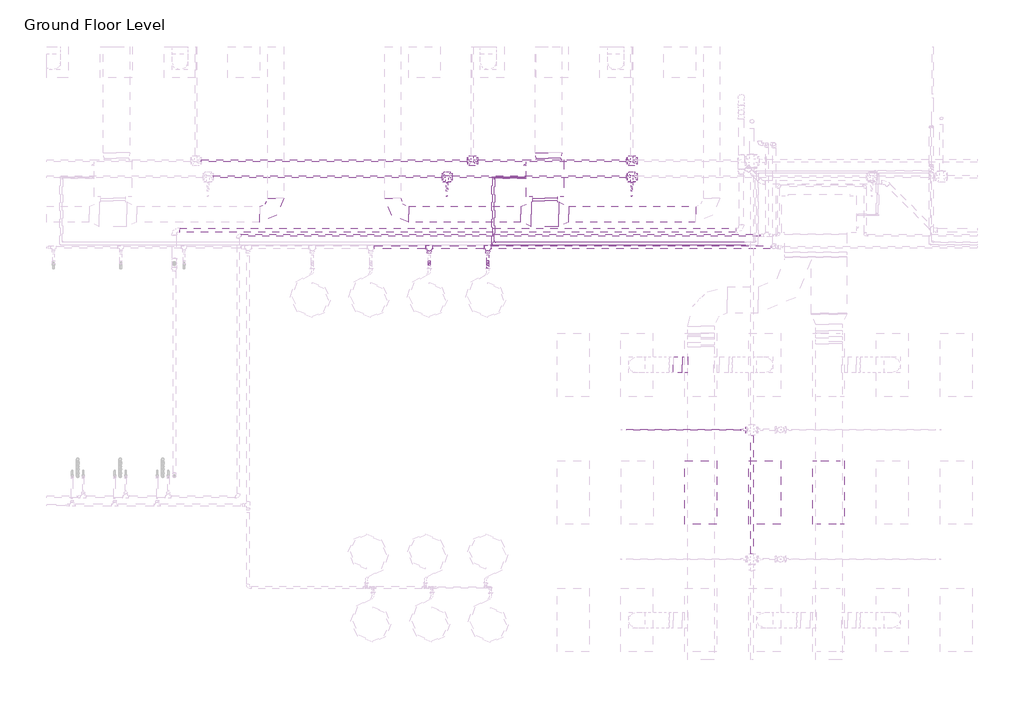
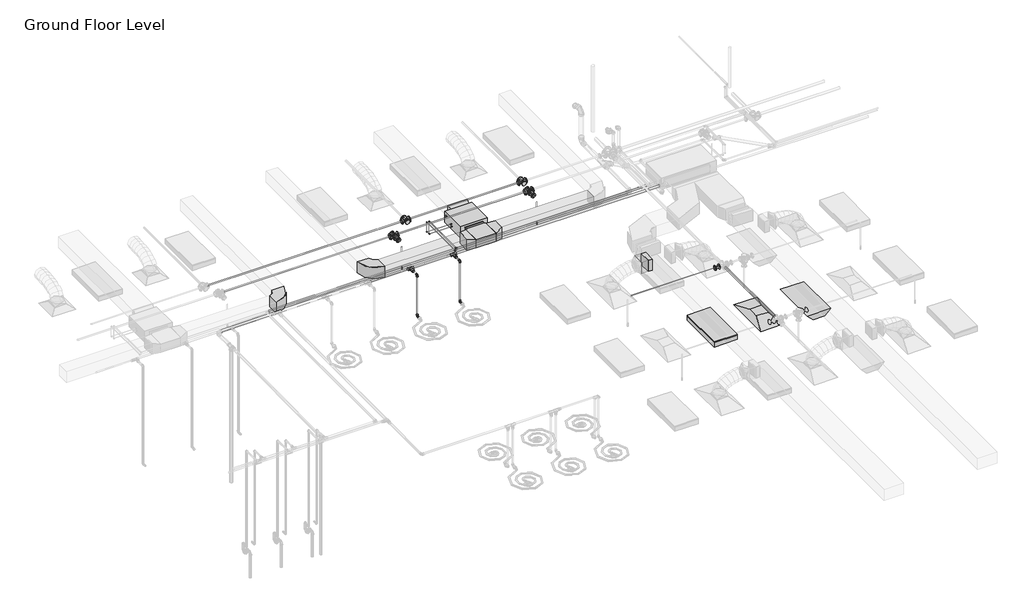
# One storey, part 48 of 72: 27 pipe segments, 21 pipe fittings, 9 duct fittings, 4 duct segments, 2 fire suppression terminals, 2 light fixtures, 1 air terminal, 1 proxy.
"""IFC4 building model written with IfcOpenShell, lengths in millimetres."""

from ifc_helpers import new_model, si_unit, point, frame, frame_2d, origin, place, context, project, spatial, polyline, circle_curve, trimmed, segment, composite_curve, outline, extrude, transform, mapped, element, save
from components import m_return_diffuser_1200x600_1200_x_600_face_300_x_300_d1983ef6, fcu_daikin_iu_bad131e0, m_rectangular_elbow_radius_1_w_618da153, m_rectangular_takeoff_standard_2be5eba1, m_rectangular_tee_standard_fa4de0e8, m_rectangular_transition_angle_45_degree_5a11b24e, m_rectangular_transition_angle_45_degree_27e6000f, m_rectangular_transition_angle_45_degree_1c32c0a1, m_rectangular_transition_angle_45_degree_6e5ad010, m_sprinkler_pendent_15_mm_pendent_06fcbd8e, m_emergency_recessed_lighting_fixture_600x1200_277_5b10b25d, m_troffer_light_parabolic_rectangular1_0600x1200mm_4_lamp_86473d4a, m_elbow_generic_standard_a088f956, m_elbow_generic_standard_2a704253, m_elbow_generic_standard_6b1a80c6, m_elbow_generic_standard_5542be81, m_reducer_flanged_cs_class_150_standard_ccf252ad, m_reducer_flanged_cs_class_150_standard_83138b42, m_tee_generic_standard_5b2ed4d4, m_tee_generic_standard_25a94648, m_tee_round_base_flanged_cs_class_150_standard_7e5987a1, standard_517a5a8d, standard_cd25fed3, standard_f1337950

model = new_model("IFC4")

# Units and contexts
model_context = context("Model", 3, world=origin())
ifc_project = project(units=[si_unit("LENGTHUNIT", "METRE", prefix="MILLI")], contexts=[model_context])

# Site, building, storey
site = spatial("IfcSite", under=ifc_project)
building = spatial("IfcBuilding", under=site)
storey = spatial("IfcBuildingStorey", under=building, Name="Ground Floor Level", Elevation=900.0)

# Air terminal
placement = place(None, origin())
m_return_diffuser_1200x600_1200_x_600_face_300_x_300_shape = m_return_diffuser_1200x600_1200_x_600_face_300_x_300_d1983ef6(model_context)
element("IfcAirTerminal", 1, ObjectType="M_Return Diffuser 1200x600 : 1200 x 600 Face 300 x 300 Connection", at=placement, inside=storey, context=model_context, shape_type="MappedRepresentation", body=[
    mapped(m_return_diffuser_1200x600_1200_x_600_face_300_x_300_shape, transform((-5737.2327605, 8835.2153534, 3650.0), x_axis=(0.0, 1.0, 0.0), y_axis=(-1.0, 0.0, 0.0), z_axis=(0.0, 0.0, 1.0))),
])

# Proxy
fcu_daikin_iu_shape = fcu_daikin_iu_bad131e0(model_context)
element("IfcBuildingElementProxy", 2, Name="FCU-DAIKIN IU : 4.5kW, 230V/50Hz/1Ph", ObjectType="FCU-DAIKIN IU : 4.5kW, 230V/50Hz/1Ph", at=placement, inside=storey, context=model_context, shape_type="MappedRepresentation", body=[
    mapped(fcu_daikin_iu_shape, transform((-9872.2327605, 14745.2153534, 3934.0872564), x_axis=(-1.0, 0.0, 0.0), y_axis=(0.0, -1.0, 0.0), z_axis=(0.0, 0.0, 1.0))),
])

# Duct fittings
m_rectangular_elbow_radius_1_w_shape = m_rectangular_elbow_radius_1_w_618da153(model_context)
element("IfcDuctFitting", 3, ObjectType="M_Rectangular Elbow - Radius : 1 W", at=placement, inside=storey, context=model_context, shape_type="MappedRepresentation", body=[
    mapped(m_rectangular_elbow_radius_1_w_shape, transform((-14937.2327605, 14069.8153534, 4075.2881511), x_axis=(1.0, 0.0, 0.0), y_axis=(0.0, 1.0, 0.0), z_axis=(0.0, 0.0, 1.0))),
])
element("IfcDuctFitting", 4, ObjectType="M_Rectangular Elbow - Radius : 1 W", at=placement, inside=storey, context=model_context, shape_type="MappedRepresentation", body=[
    mapped(m_rectangular_elbow_radius_1_w_shape, transform((-12737.2327605, 14069.8153534, 4075.2872564), x_axis=(0.0, -1.0, 0.0), y_axis=(1.0, 0.0, 0.0), z_axis=(0.0, 0.0, 1.0))),
])
m_rectangular_takeoff_standard_shape = m_rectangular_takeoff_standard_2be5eba1(model_context)
element("IfcDuctFitting", 5, ObjectType="M_Rectangular Takeoff : Standard", at=placement, inside=storey, context=model_context, shape_type="MappedRepresentation", body=[
    mapped(m_rectangular_takeoff_standard_shape, transform((-7189.6910789, 11235.2153534, 4150.0), x_axis=(-1.0, 0.0, 0.0), y_axis=(0.0, 1.0, 0.0), z_axis=(0.0, 0.0, -1.0))),
])
m_rectangular_tee_standard_shape = m_rectangular_tee_standard_fa4de0e8(model_context)
element("IfcDuctFitting", 6, ObjectType="M_Rectangular Tee : Standard", at=placement, inside=storey, context=model_context, shape_type="MappedRepresentation", body=[
    mapped(m_rectangular_tee_standard_shape, transform((-9872.2327605, 14069.8153534, 4075.2872564), x_axis=(-1.0, 0.0, 0.0), y_axis=(0.0, -1.0, 0.0), z_axis=(0.0, 0.0, 1.0))),
])
m_rectangular_transition_angle_45_degree_shape = m_rectangular_transition_angle_45_degree_5a11b24e(model_context)
element("IfcDuctFitting", 7, ObjectType="M_Rectangular Transition - Angle : 45 Degree", at=placement, inside=storey, context=model_context, shape_type="MappedRepresentation", body=[
    mapped(m_rectangular_transition_angle_45_degree_shape, transform((-9808.7327605, 15120.6153534, 4099.9997564), x_axis=(0.0, 1.0, 0.0), y_axis=(-1.0, 0.0, 0.0), z_axis=(0.0, 0.0, 1.0))),
])
m_rectangular_transition_angle_45_degree_2_shape = m_rectangular_transition_angle_45_degree_27e6000f(model_context)
element("IfcDuctFitting", 8, ObjectType="M_Rectangular Transition - Angle : 45 Degree", at=placement, inside=storey, context=model_context, shape_type="MappedRepresentation", body=[
    mapped(m_rectangular_transition_angle_45_degree_2_shape, transform((-9872.2327605, 14369.8153534, 4075.2872564), x_axis=(0.0, -1.0, 0.0), y_axis=(1.0, 0.0, 0.0), z_axis=(0.0, 0.0, 1.0))),
])
m_rectangular_transition_angle_45_degree_3_shape = m_rectangular_transition_angle_45_degree_1c32c0a1(model_context)
element("IfcDuctFitting", 9, ObjectType="M_Rectangular Transition - Angle : 45 Degree", at=placement, inside=storey, context=model_context, shape_type="MappedRepresentation", body=[
    mapped(m_rectangular_transition_angle_45_degree_3_shape, transform((-9872.2327605, 14326.1149854, 4075.2872564), x_axis=(0.0, -1.0, 0.0), y_axis=(1.0, 0.0, 0.0), z_axis=(0.0, 0.0, 1.0))),
])
m_rectangular_transition_angle_45_degree_4_shape = m_rectangular_transition_angle_45_degree_6e5ad010(model_context)
element("IfcDuctFitting", 10, ObjectType="M_Rectangular Transition - Angle : 45 Degree", at=placement, inside=storey, context=model_context, shape_type="MappedRepresentation", body=[
    mapped(m_rectangular_transition_angle_45_degree_4_shape, transform((-10128.1702605, 14069.8153534, 4075.2872564), x_axis=(-1.0, 0.0, 0.0), y_axis=(0.0, -1.0, 0.0), z_axis=(0.0, 0.0, 1.0))),
])
element("IfcDuctFitting", 11, ObjectType="M_Rectangular Transition - Angle : 45 Degree", at=placement, inside=storey, context=model_context, shape_type="MappedRepresentation", body=[
    mapped(m_rectangular_transition_angle_45_degree_4_shape, transform((-9616.2952605, 14069.8153534, 4075.2872564), x_axis=(1.0, 0.0, 0.0), y_axis=(0.0, 1.0, 0.0), z_axis=(0.0, 0.0, 1.0))),
])

# Duct segments
element("IfcDuctSegment", 12, ObjectType="Radius Elbows / Taps", at=placement, inside=storey, context=model_context, shape_type="SweptSolid", body=[
    extrude(outline(polyline([(-9420.8948503, 13919.8153534), (-9420.8948503, 14219.8153534), (-7037.2327605, 14219.8153534), (-7037.2327605, 13919.8153534), (-9420.8948503, 13919.8153534)])), frame((0.0, 0.0, 3925.2872564), z_axis=(0.0, 0.0, 1.0), x_axis=(1.0, 0.0, 0.0)), (0.0, 0.0, 1.0), 300.0),
])
element("IfcDuctSegment", 13, ObjectType="Radius Elbows / Taps", at=placement, inside=storey, context=model_context, shape_type="SweptSolid", body=[
    extrude(outline(polyline([(-12437.2327605, 13919.8153534), (-12437.2327605, 14219.8153534), (-10323.5706707, 14219.8153534), (-10323.5706707, 13919.8153534), (-12437.2327605, 13919.8153534)])), frame((0.0, 0.0, 3925.2872564), z_axis=(0.0, 0.0, 1.0), x_axis=(1.0, 0.0, 0.0)), (0.0, 0.0, 1.0), 300.0),
])
element("IfcDuctSegment", 14, ObjectType="Radius Elbows / Taps", at=placement, inside=storey, context=model_context, shape_type="SweptSolid", body=[
    extrude(outline(polyline([(-10103.2327605, 14369.4532214), (-9641.2327605, 14369.4532214), (-9641.2327605, 14326.1149854), (-10103.2327605, 14326.1149854), (-10103.2327605, 14369.4532214)])), frame((0.0, 0.0, 3968.2872564), z_axis=(0.0, 0.0, 1.0), x_axis=(1.0, 0.0, 0.0)), (0.0, 0.0, 1.0), 214.0),
])
element("IfcDuctSegment", 15, ObjectType="Radius Elbows / Taps", at=placement, inside=storey, context=model_context, shape_type="SweptSolid", body=[
    extrude(outline(polyline([(-7291.2910789, 11385.2153534), (-7291.2910789, 11085.2153534), (-7461.2487616, 11085.2153534), (-7461.2487616, 11385.2153534), (-7291.2910789, 11385.2153534)])), frame((0.0, 0.0, 4000.0), z_axis=(0.0, 0.0, 1.0), x_axis=(1.0, 0.0, 0.0)), (0.0, 0.0, 1.0), 300.0),
])

# Fire suppression terminals
m_sprinkler_pendent_15_mm_pendent_shape = m_sprinkler_pendent_15_mm_pendent_06fcbd8e(model_context)
element("IfcFireSuppressionTerminal", 16, ObjectType="M_Sprinkler - Pendent : 15 mm Pendent", at=placement, inside=storey, context=model_context, shape_type="MappedRepresentation", body=[
    mapped(m_sprinkler_pendent_15_mm_pendent_shape, transform((-11714.286216, 14412.7243649, 3650.0), x_axis=(1.0, 0.0, 0.0), y_axis=(0.0, 1.0, 0.0), z_axis=(0.0, 0.0, 1.0))),
])
element("IfcFireSuppressionTerminal", 17, ObjectType="M_Sprinkler - Pendent : 15 mm Pendent", at=placement, inside=storey, context=model_context, shape_type="MappedRepresentation", body=[
    mapped(m_sprinkler_pendent_15_mm_pendent_shape, transform((-8237.2327605, 14412.7243649, 3650.0), x_axis=(1.0, 0.0, 0.0), y_axis=(0.0, 1.0, 0.0), z_axis=(0.0, 0.0, 1.0))),
])

# Light fixtures
m_emergency_recessed_lighting_fixture_600x1200_277_shape = m_emergency_recessed_lighting_fixture_600x1200_277_5b10b25d(model_context)
element("IfcLightFixture", 18, ObjectType="M_Emergency Recessed Lighting Fixture : 600x1200 - 277", at=placement, inside=storey, context=model_context, shape_type="MappedRepresentation", body=[
    mapped(m_emergency_recessed_lighting_fixture_600x1200_277_shape, transform((-4837.2327605, 8235.2153534, 3650.0), x_axis=(0.0, 1.0, 0.0), y_axis=(-1.0, 0.0, 0.0), z_axis=(0.0, 0.0, 1.0))),
])
m_troffer_light_parabolic_rectangular1_0600x1200mm_4_lamp_shape = m_troffer_light_parabolic_rectangular1_0600x1200mm_4_lamp_86473d4a(model_context)
element("IfcLightFixture", 19, ObjectType="M_Troffer Light - Parabolic Rectangular1 : 0600x1200mm(4 Lamp) - 277V 2", at=placement, inside=storey, context=model_context, shape_type="MappedRepresentation", body=[
    mapped(m_troffer_light_parabolic_rectangular1_0600x1200mm_4_lamp_shape, transform((-6996.6986926, 8853.918855, 3650.0), x_axis=(0.0, 1.0, 0.0), y_axis=(-1.0, 0.0, 0.0), z_axis=(0.0, 0.0, 1.0))),
])

# Pipe fittings
m_elbow_generic_standard_shape = m_elbow_generic_standard_a088f956(model_context)
element("IfcPipeFitting", 20, ObjectType="M_Elbow - Generic : Standard", at=placement, inside=storey, context=model_context, shape_type="MappedRepresentation", body=[
    mapped(m_elbow_generic_standard_shape, transform((-10820.3327605, 14745.2153534, 4380.0), x_axis=(0.0, 0.0, 1.0), y_axis=(0.0, -1.0, 0.0), z_axis=(1.0, 0.0, 0.0))),
])
m_elbow_generic_standard_2_shape = m_elbow_generic_standard_2a704253(model_context)
element("IfcPipeFitting", 21, ObjectType="M_Elbow - Generic : Standard", at=placement, inside=storey, context=model_context, shape_type="MappedRepresentation", body=[
    mapped(m_elbow_generic_standard_2_shape, transform((-10870.0192947, 14770.2153534, 4365.0), x_axis=(0.0, 0.0, 1.0), y_axis=(0.0, -1.0, 0.0), z_axis=(1.0, 0.0, 0.0))),
])
m_elbow_generic_standard_3_shape = m_elbow_generic_standard_6b1a80c6(model_context)
element("IfcPipeFitting", 22, ObjectType="M_Elbow - Generic : Standard", at=placement, inside=storey, context=model_context, shape_type="MappedRepresentation", body=[
    mapped(m_elbow_generic_standard_3_shape, transform((-10820.3359808, 14745.2153534, 4034.0996164), x_axis=(-0.9999999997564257, 0.0, 2.2071440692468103e-05), y_axis=(2.2071440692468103e-05, 0.0, 0.9999999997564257), z_axis=(0.0, 1.0, 0.0))),
])
m_elbow_generic_standard_4_shape = m_elbow_generic_standard_5542be81(model_context)
element("IfcPipeFitting", 23, ObjectType="M_Elbow - Generic : Standard", at=placement, inside=storey, context=model_context, shape_type="MappedRepresentation", body=[
    mapped(m_elbow_generic_standard_4_shape, transform((-10870.0222525, 14770.2153534, 4084.8996164), x_axis=(0.0, 0.0, -1.0), y_axis=(1.0, 0.0, 0.0), z_axis=(0.0, -1.0, 0.0))),
])
m_reducer_flanged_cs_class_150_standard_shape = m_reducer_flanged_cs_class_150_standard_ccf252ad(model_context)
element("IfcPipeFitting", 24, ObjectType="M_Reducer - Flanged - CS - Class 150 : Standard", at=placement, inside=storey, context=model_context, shape_type="MappedRepresentation", body=[
    mapped(m_reducer_flanged_cs_class_150_standard_shape, transform((-11714.286216, 14672.759591, 4291.0943441), x_axis=(0.0, -1.0, 0.0), y_axis=(1.0, 0.0, 0.0), z_axis=(0.0, 0.0, 1.0))),
])
element("IfcPipeFitting", 25, ObjectType="M_Reducer - Flanged - CS - Class 150 : Standard", at=placement, inside=storey, context=model_context, shape_type="MappedRepresentation", body=[
    mapped(m_reducer_flanged_cs_class_150_standard_shape, transform((-8237.2327605, 14672.759591, 4291.0943441), x_axis=(0.0, -1.0, 0.0), y_axis=(1.0, 0.0, 0.0), z_axis=(0.0, 0.0, 1.0))),
])
m_reducer_flanged_cs_class_150_standard_2_shape = m_reducer_flanged_cs_class_150_standard_83138b42(model_context)
element("IfcPipeFitting", 26, ObjectType="M_Reducer - Flanged - CS - Class 150 : Standard", at=placement, inside=storey, context=model_context, shape_type="MappedRepresentation", body=[
    mapped(m_reducer_flanged_cs_class_150_standard_2_shape, transform((-6080.130502, 10013.008259, 4360.0), x_axis=(-1.0, 0.0, 0.0), y_axis=(0.0, 0.0, -1.0), z_axis=(0.0, -1.0, 0.0))),
])
m_tee_generic_standard_shape = m_tee_generic_standard_5b2ed4d4(model_context)
element("IfcPipeFitting", 27, ObjectType="M_Tee - Generic : Standard", at=placement, inside=storey, context=model_context, shape_type="MappedRepresentation", body=[
    mapped(m_tee_generic_standard_shape, transform((-10820.3327605, 13545.2153534, 4380.0), x_axis=(1.0, 0.0, 0.0), y_axis=(0.0, -1.0, 0.0), z_axis=(0.0, 0.0, -1.0))),
])
m_tee_generic_standard_2_shape = m_tee_generic_standard_25a94648(model_context)
element("IfcPipeFitting", 28, ObjectType="M_Tee - Generic : Standard", at=placement, inside=storey, context=model_context, shape_type="MappedRepresentation", body=[
    mapped(m_tee_generic_standard_2_shape, transform((-10870.0192947, 13494.0185138, 4365.0), x_axis=(-1.0, 0.0, 0.0), y_axis=(0.0, -1.0, 0.0), z_axis=(0.0, 0.0, 1.0))),
])
m_tee_round_base_flanged_cs_class_150_standard_shape = m_tee_round_base_flanged_cs_class_150_standard_7e5987a1(model_context)
element("IfcPipeFitting", 29, ObjectType="M_Tee Round Base - Flanged - CS - Class 150 : Standard", at=placement, inside=storey, context=model_context, shape_type="MappedRepresentation", body=[
    mapped(m_tee_round_base_flanged_cs_class_150_standard_shape, transform((-11714.286216, 14773.4681847, 4291.0943441), x_axis=(-1.0, 0.0, 0.0), y_axis=(0.0, 1.0, 0.0), z_axis=(0.0, 0.0, -1.0))),
])
element("IfcPipeFitting", 30, ObjectType="M_Tee Round Base - Flanged - CS - Class 150 : Standard", at=placement, inside=storey, context=model_context, shape_type="MappedRepresentation", body=[
    mapped(m_tee_round_base_flanged_cs_class_150_standard_shape, transform((-8237.2327605, 14773.4681847, 4291.0943441), x_axis=(-1.0, 0.0, 0.0), y_axis=(0.0, 1.0, 0.0), z_axis=(0.0, 0.0, -1.0))),
])
element("IfcPipeFitting", 31, ObjectType="M_Tee Round Base - Flanged - CS - Class 150 : Standard", at=placement, inside=storey, context=model_context, shape_type="MappedRepresentation", body=[
    mapped(m_tee_round_base_flanged_cs_class_150_standard_shape, transform((-11237.2327605, 15073.2009828, 4360.0), x_axis=(-1.0, 0.0, 0.0), y_axis=(0.0, -1.0, 0.0), z_axis=(0.0, 0.0, 1.0))),
])
element("IfcPipeFitting", 32, ObjectType="M_Tee Round Base - Flanged - CS - Class 150 : Standard", at=placement, inside=storey, context=model_context, shape_type="MappedRepresentation", body=[
    mapped(m_tee_round_base_flanged_cs_class_150_standard_shape, transform((-8237.2327605, 15073.2009828, 4360.0), x_axis=(-1.0, 0.0, 0.0), y_axis=(0.0, -1.0, 0.0), z_axis=(0.0, 0.0, 1.0))),
])
standard_shape = standard_517a5a8d(model_context)
element("IfcPipeFitting", 33, ObjectType="M_Elbow - CPVC - Sch 40 : Standard", at=placement, inside=storey, context=model_context, shape_type="MappedRepresentation", body=[
    mapped(standard_shape, transform((-12047.2327605, 13150.8347997, 4315.0), x_axis=(0.0, 0.0, 1.0), y_axis=(0.0, 1.0, 0.0), z_axis=(-1.0, 0.0, 0.0))),
])
element("IfcPipeFitting", 34, ObjectType="M_Elbow - CPVC - Sch 40 : Standard", at=placement, inside=storey, context=model_context, shape_type="MappedRepresentation", body=[
    mapped(standard_shape, transform((-10947.2327605, 13150.8347997, 4315.0), x_axis=(0.0, 0.0, 1.0), y_axis=(0.0, 1.0, 0.0), z_axis=(-1.0, 0.0, 0.0))),
])
element("IfcPipeFitting", 35, ObjectType="M_Elbow - CPVC - Sch 40 : Standard", at=placement, inside=storey, context=model_context, shape_type="MappedRepresentation", body=[
    mapped(standard_shape, transform((-12047.2327605, 13150.8347997, 3200.0), x_axis=(0.0, 0.0, -1.0), y_axis=(0.0, -1.0, 0.0), z_axis=(-1.0, 0.0, 0.0))),
])
element("IfcPipeFitting", 36, ObjectType="M_Elbow - CPVC - Sch 40 : Standard", at=placement, inside=storey, context=model_context, shape_type="MappedRepresentation", body=[
    mapped(standard_shape, transform((-10947.2327605, 13150.8347997, 3200.0), x_axis=(0.0, 0.0, -1.0), y_axis=(0.0, -1.0, 0.0), z_axis=(-1.0, 0.0, 0.0))),
])
standard_2_shape = standard_cd25fed3(model_context)
element("IfcPipeFitting", 37, ObjectType="M_Tee - CPVC - Sch 40 : Standard", at=placement, inside=storey, context=model_context, shape_type="MappedRepresentation", body=[
    mapped(standard_2_shape, transform((-12047.2327605, 13449.9865561, 4315.0), x_axis=(-1.0, 0.0, 0.0), y_axis=(0.0, 1.0, 0.0), z_axis=(0.0, 0.0, -1.0))),
])
element("IfcPipeFitting", 38, ObjectType="M_Tee - CPVC - Sch 40 : Standard", at=placement, inside=storey, context=model_context, shape_type="MappedRepresentation", body=[
    mapped(standard_2_shape, transform((-10947.2327605, 13449.9865561, 4315.0), x_axis=(1.0, 0.0, 0.0), y_axis=(0.0, 1.0, 0.0), z_axis=(0.0, 0.0, 1.0))),
])
standard_3_shape = standard_f1337950(model_context)
element("IfcPipeFitting", 39, ObjectType="M_Coupling Reducing - CPVC - Sch 40 : Standard", at=placement, inside=storey, context=model_context, shape_type="MappedRepresentation", body=[
    mapped(standard_3_shape, transform((-12047.2327605, 13383.3115561, 4315.0), x_axis=(0.0, -1.0, 0.0), y_axis=(1.0, 0.0, 0.0), z_axis=(0.0, 0.0, 1.0))),
])
element("IfcPipeFitting", 40, ObjectType="M_Coupling Reducing - CPVC - Sch 40 : Standard", at=placement, inside=storey, context=model_context, shape_type="MappedRepresentation", body=[
    mapped(standard_3_shape, transform((-10947.2327605, 13383.3115561, 4315.0), x_axis=(0.0, -1.0, 0.0), y_axis=(1.0, 0.0, 0.0), z_axis=(0.0, 0.0, 1.0))),
])

# Pipe segments
element("IfcPipeSegment", 41, ObjectType="CPVC", at=placement, inside=storey, context=model_context, shape_type="SweptSolid", body=[
    extrude(outline(composite_curve([segment(trimmed(circle_curve(frame_2d((-12047.2327605, 13150.8347997)), 16.7005), [point((-12063.9332605, 13150.8347997))], [point((-12047.2327605, 13167.5352997))], False, "CARTESIAN"), True, "CONTINUOUS"), segment(trimmed(circle_curve(frame_2d((-12047.2327605, 13150.8347997)), 16.7005), [point((-12047.2327605, 13167.5352997))], [point((-12030.5322605, 13150.8347997))], False, "CARTESIAN"), True, "CONTINUOUS"), segment(trimmed(circle_curve(frame_2d((-12047.2327605, 13150.8347997)), 16.7005), [point((-12030.5322605, 13150.8347997))], [point((-12047.2327605, 13134.1342997))], False, "CARTESIAN"), True, "CONTINUOUS"), segment(trimmed(circle_curve(frame_2d((-12047.2327605, 13150.8347997)), 16.7005), [point((-12047.2327605, 13134.1342997))], [point((-12063.9332605, 13150.8347997))], False, "CARTESIAN"), True, "CONTINUOUS")], self_intersect=False)), frame((0.0, 0.0, 3243.26255), z_axis=(0.0, 0.0, 1.0), x_axis=(1.0, 0.0, 0.0)), (0.0, 0.0, 1.0), 1028.4749),
])
element("IfcPipeSegment", 42, ObjectType="CPVC", at=placement, inside=storey, context=model_context, shape_type="SweptSolid", body=[
    extrude(outline(composite_curve([segment(trimmed(circle_curve(frame_2d((3200.0, -10947.2327605)), 16.7005), [point((3200.0, -10963.9332605))], [point((3183.2995, -10947.2327605))], False, "CARTESIAN"), True, "CONTINUOUS"), segment(trimmed(circle_curve(frame_2d((3200.0, -10947.2327605)), 16.7005), [point((3183.2995, -10947.2327605))], [point((3200.0, -10930.5322605))], False, "CARTESIAN"), True, "CONTINUOUS"), segment(trimmed(circle_curve(frame_2d((3200.0, -10947.2327605)), 16.7005), [point((3200.0, -10930.5322605))], [point((3216.7005, -10947.2327605))], False, "CARTESIAN"), True, "CONTINUOUS"), segment(trimmed(circle_curve(frame_2d((3200.0, -10947.2327605)), 16.7005), [point((3216.7005, -10947.2327605))], [point((3200.0, -10963.9332605))], False, "CARTESIAN"), True, "CONTINUOUS")], self_intersect=False)), frame((0.0, 13056.8347997, 0.0), z_axis=(0.0, 1.0, 0.0), x_axis=(0.0, 0.0, 1.0)), (0.0, 0.0, 1.0), 50.73745),
])
element("IfcPipeSegment", 43, ObjectType="CPVC", at=placement, inside=storey, context=model_context, shape_type="SweptSolid", body=[
    extrude(outline(composite_curve([segment(trimmed(circle_curve(frame_2d((4315.0, -10947.2327605)), 16.7005), [point((4315.0, -10930.5322605))], [point((4331.7005, -10947.2327605))], False, "CARTESIAN"), True, "CONTINUOUS"), segment(trimmed(circle_curve(frame_2d((4315.0, -10947.2327605)), 16.7005), [point((4331.7005, -10947.2327605))], [point((4315.0, -10963.9332605))], False, "CARTESIAN"), True, "CONTINUOUS"), segment(trimmed(circle_curve(frame_2d((4315.0, -10947.2327605)), 16.7005), [point((4315.0, -10963.9332605))], [point((4298.2995, -10947.2327605))], False, "CARTESIAN"), True, "CONTINUOUS"), segment(trimmed(circle_curve(frame_2d((4315.0, -10947.2327605)), 16.7005), [point((4298.2995, -10947.2327605))], [point((4315.0, -10930.5322605))], False, "CARTESIAN"), True, "CONTINUOUS")], self_intersect=False)), frame((0.0, 13194.0973497, 0.0), z_axis=(0.0, 1.0, 0.0), x_axis=(0.0, 0.0, 1.0)), (0.0, 0.0, 1.0), 109.4153315),
])
element("IfcPipeSegment", 44, ObjectType="CPVC", at=placement, inside=storey, context=model_context, shape_type="SweptSolid", body=[
    extrude(outline(composite_curve([segment(trimmed(circle_curve(frame_2d((-10947.2327605, 13150.8347997)), 16.7005), [point((-10963.9332605, 13150.8347997))], [point((-10947.2327605, 13167.5352997))], False, "CARTESIAN"), True, "CONTINUOUS"), segment(trimmed(circle_curve(frame_2d((-10947.2327605, 13150.8347997)), 16.7005), [point((-10947.2327605, 13167.5352997))], [point((-10930.5322605, 13150.8347997))], False, "CARTESIAN"), True, "CONTINUOUS"), segment(trimmed(circle_curve(frame_2d((-10947.2327605, 13150.8347997)), 16.7005), [point((-10930.5322605, 13150.8347997))], [point((-10947.2327605, 13134.1342997))], False, "CARTESIAN"), True, "CONTINUOUS"), segment(trimmed(circle_curve(frame_2d((-10947.2327605, 13150.8347997)), 16.7005), [point((-10947.2327605, 13134.1342997))], [point((-10963.9332605, 13150.8347997))], False, "CARTESIAN"), True, "CONTINUOUS")], self_intersect=False)), frame((0.0, 0.0, 3243.26255), z_axis=(0.0, 0.0, 1.0), x_axis=(1.0, 0.0, 0.0)), (0.0, 0.0, 1.0), 1028.4749),
])
element("IfcPipeSegment", 45, ObjectType="CPVC", at=placement, inside=storey, context=model_context, shape_type="SweptSolid", body=[
    extrude(outline(composite_curve([segment(trimmed(circle_curve(frame_2d((13449.9865561, 4315.0)), 30.1625), [point((13419.8240561, 4315.0))], [point((13449.9865561, 4345.1625))], False, "CARTESIAN"), True, "CONTINUOUS"), segment(trimmed(circle_curve(frame_2d((13449.9865561, 4315.0)), 30.1625), [point((13449.9865561, 4345.1625))], [point((13480.1490561, 4315.0))], False, "CARTESIAN"), True, "CONTINUOUS"), segment(trimmed(circle_curve(frame_2d((13449.9865561, 4315.0)), 30.1625), [point((13480.1490561, 4315.0))], [point((13449.9865561, 4284.8375))], False, "CARTESIAN"), True, "CONTINUOUS"), segment(trimmed(circle_curve(frame_2d((13449.9865561, 4315.0)), 30.1625), [point((13449.9865561, 4284.8375))], [point((13419.8240561, 4315.0))], False, "CARTESIAN"), True, "CONTINUOUS")], self_intersect=False)), frame((-13080.5577605, 0.0, 0.0), z_axis=(1.0, 0.0, 0.0), x_axis=(0.0, 1.0, 0.0)), (0.0, 0.0, 1.0), 966.65),
])
element("IfcPipeSegment", 46, ObjectType="CPVC", at=placement, inside=storey, context=model_context, shape_type="SweptSolid", body=[
    extrude(outline(composite_curve([segment(trimmed(circle_curve(frame_2d((13449.9865561, 4315.0)), 30.1625), [point((13419.8240561, 4315.0))], [point((13449.9865561, 4345.1625))], False, "CARTESIAN"), True, "CONTINUOUS"), segment(trimmed(circle_curve(frame_2d((13449.9865561, 4315.0)), 30.1625), [point((13449.9865561, 4345.1625))], [point((13480.1490561, 4315.0))], False, "CARTESIAN"), True, "CONTINUOUS"), segment(trimmed(circle_curve(frame_2d((13449.9865561, 4315.0)), 30.1625), [point((13480.1490561, 4315.0))], [point((13449.9865561, 4284.8375))], False, "CARTESIAN"), True, "CONTINUOUS"), segment(trimmed(circle_curve(frame_2d((13449.9865561, 4315.0)), 30.1625), [point((13449.9865561, 4284.8375))], [point((13419.8240561, 4315.0))], False, "CARTESIAN"), True, "CONTINUOUS")], self_intersect=False)), frame((-11980.5577605, 0.0, 0.0), z_axis=(1.0, 0.0, 0.0), x_axis=(0.0, 1.0, 0.0)), (0.0, 0.0, 1.0), 966.65),
])
element("IfcPipeSegment", 47, ObjectType="CPVC", at=placement, inside=storey, context=model_context, shape_type="SweptSolid", body=[
    extrude(outline(composite_curve([segment(trimmed(circle_curve(frame_2d((13675.2153534, 4250.0)), 21.082), [point((13654.1333534, 4250.0))], [point((13675.2153534, 4271.082))], False, "CARTESIAN"), True, "CONTINUOUS"), segment(trimmed(circle_curve(frame_2d((13675.2153534, 4250.0)), 21.082), [point((13675.2153534, 4271.082))], [point((13696.2973534, 4250.0))], False, "CARTESIAN"), True, "CONTINUOUS"), segment(trimmed(circle_curve(frame_2d((13675.2153534, 4250.0)), 21.082), [point((13696.2973534, 4250.0))], [point((13675.2153534, 4228.918))], False, "CARTESIAN"), True, "CONTINUOUS"), segment(trimmed(circle_curve(frame_2d((13675.2153534, 4250.0)), 21.082), [point((13675.2153534, 4228.918))], [point((13654.1333534, 4250.0))], False, "CARTESIAN"), True, "CONTINUOUS")], self_intersect=False)), frame((-15584.8736174, 0.0, 0.0), z_axis=(1.0, 0.0, 0.0), x_axis=(0.0, 1.0, 0.0)), (0.0, 0.0, 1.0), 9750.0786527),
])
element("IfcPipeSegment", 48, ObjectType="CPVC", at=placement, inside=storey, context=model_context, shape_type="SweptSolid", body=[
    extrude(outline(composite_curve([segment(trimmed(circle_curve(frame_2d((13449.9865561, 4315.0)), 30.1625), [point((13419.8240561, 4315.0))], [point((13449.9865561, 4345.1625))], False, "CARTESIAN"), True, "CONTINUOUS"), segment(trimmed(circle_curve(frame_2d((13449.9865561, 4315.0)), 30.1625), [point((13449.9865561, 4345.1625))], [point((13480.1490561, 4315.0))], False, "CARTESIAN"), True, "CONTINUOUS"), segment(trimmed(circle_curve(frame_2d((13449.9865561, 4315.0)), 30.1625), [point((13480.1490561, 4315.0))], [point((13449.9865561, 4284.8375))], False, "CARTESIAN"), True, "CONTINUOUS"), segment(trimmed(circle_curve(frame_2d((13449.9865561, 4315.0)), 30.1625), [point((13449.9865561, 4284.8375))], [point((13419.8240561, 4315.0))], False, "CARTESIAN"), True, "CONTINUOUS")], self_intersect=False)), frame((-10880.5577605, 0.0, 0.0), z_axis=(1.0, 0.0, 0.0), x_axis=(0.0, 1.0, 0.0)), (0.0, 0.0, 1.0), 5253.0113849),
])
element("IfcPipeSegment", 49, ObjectType="Copper", at=placement, inside=storey, context=model_context, shape_type="SweptSolid", body=[
    extrude(outline(composite_curve([segment(trimmed(circle_curve(frame_2d((0.0, -3.35)), 3.35), [point((-3.35, -3.35))], [point((0.0, 0.0))], False, "CARTESIAN"), True, "CONTINUOUS"), segment(trimmed(circle_curve(frame_2d((0.0, -3.35)), 3.35), [point((0.0, 0.0))], [point((3.35, -3.35))], False, "CARTESIAN"), True, "CONTINUOUS"), segment(trimmed(circle_curve(frame_2d((0.0, -3.35)), 3.35), [point((3.35, -3.35))], [point((0.0, -6.7))], False, "CARTESIAN"), True, "CONTINUOUS"), segment(trimmed(circle_curve(frame_2d((0.0, -3.35)), 3.35), [point((0.0, -6.7))], [point((-3.35, -3.35))], False, "CARTESIAN"), True, "CONTINUOUS")], self_intersect=False)), frame((-10260.3328284, 14770.2153534, 4081.5372564), z_axis=(-0.9999999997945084, 0.0, 2.0272724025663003e-05), x_axis=(0.0, 1.0, 0.0)), (0.0, 0.0, 1.0), 598.5522179),
])
element("IfcPipeSegment", 50, ObjectType="Copper", at=placement, inside=storey, context=model_context, shape_type="SweptSolid", body=[
    extrude(outline(composite_curve([segment(trimmed(circle_curve(frame_2d((4365.0, -10870.0192947)), 3.35), [point((4365.0, -10873.3692947))], [point((4361.65, -10870.0192947))], False, "CARTESIAN"), True, "CONTINUOUS"), segment(trimmed(circle_curve(frame_2d((4365.0, -10870.0192947)), 3.35), [point((4361.65, -10870.0192947))], [point((4365.0, -10866.6692947))], False, "CARTESIAN"), True, "CONTINUOUS"), segment(trimmed(circle_curve(frame_2d((4365.0, -10870.0192947)), 3.35), [point((4365.0, -10866.6692947))], [point((4368.35, -10870.0192947))], False, "CARTESIAN"), True, "CONTINUOUS"), segment(trimmed(circle_curve(frame_2d((4365.0, -10870.0192947)), 3.35), [point((4368.35, -10870.0192947))], [point((4365.0, -10873.3692947))], False, "CARTESIAN"), True, "CONTINUOUS")], self_intersect=False)), frame((0.0, 13511.5060138, 0.0), z_axis=(0.0, 1.0, 0.0), x_axis=(0.0, 0.0, 1.0)), (0.0, 0.0, 1.0), 1247.5718396),
])
element("IfcPipeSegment", 51, ObjectType="Copper", at=placement, inside=storey, context=model_context, shape_type="SweptSolid", body=[
    extrude(outline(composite_curve([segment(trimmed(circle_curve(frame_2d((0.0, -3.35)), 3.35), [point((-3.35, -3.35))], [point((0.0, 0.0))], False, "CARTESIAN"), True, "CONTINUOUS"), segment(trimmed(circle_curve(frame_2d((0.0, -3.35)), 3.35), [point((0.0, 0.0))], [point((3.35, -3.35))], False, "CARTESIAN"), True, "CONTINUOUS"), segment(trimmed(circle_curve(frame_2d((0.0, -3.35)), 3.35), [point((3.35, -3.35))], [point((0.0, -6.7))], False, "CARTESIAN"), True, "CONTINUOUS"), segment(trimmed(circle_curve(frame_2d((0.0, -3.35)), 3.35), [point((0.0, -6.7))], [point((-3.35, -3.35))], False, "CARTESIAN"), True, "CONTINUOUS")], self_intersect=False)), frame((-10870.0222525, 14766.8653534, 4096.0368906), z_axis=(1.1472088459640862e-05, 0.0, 0.9999999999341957), x_axis=(-0.9999999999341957, 0.0, 1.1472088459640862e-05)), (0.0, 0.0, 1.0), 257.8256094),
])
element("IfcPipeSegment", 52, ObjectType="Copper", at=placement, inside=storey, context=model_context, shape_type="SweptSolid", body=[
    extrude(outline(composite_curve([segment(trimmed(circle_curve(frame_2d((0.0, 6.5)), 6.5), [point((-6.5, 6.5))], [point((0.0, 13.0))], False, "CARTESIAN"), True, "CONTINUOUS"), segment(trimmed(circle_curve(frame_2d((0.0, 6.5)), 6.5), [point((0.0, 13.0))], [point((6.5, 6.5))], False, "CARTESIAN"), True, "CONTINUOUS"), segment(trimmed(circle_curve(frame_2d((0.0, 6.5)), 6.5), [point((6.5, 6.5))], [point((0.0, 0.0))], False, "CARTESIAN"), True, "CONTINUOUS"), segment(trimmed(circle_curve(frame_2d((0.0, 6.5)), 6.5), [point((0.0, 0.0))], [point((-6.5, 6.5))], False, "CARTESIAN"), True, "CONTINUOUS")], self_intersect=False)), frame((-10260.332904, 14745.2153534, 4027.5872564), z_axis=(-0.9999999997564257, 0.0, 2.2071440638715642e-05), x_axis=(0.0, -1.0, 0.0)), (0.0, 0.0, 1.0), 545.7160357),
])
element("IfcPipeSegment", 53, ObjectType="Copper", at=placement, inside=storey, context=model_context, shape_type="SweptSolid", body=[
    extrude(outline(composite_curve([segment(trimmed(circle_curve(frame_2d((0.0, 6.5)), 6.5), [point((-6.4999999, 6.5))], [point((0.0, 13.0))], False, "CARTESIAN"), True, "CONTINUOUS"), segment(trimmed(circle_curve(frame_2d((0.0, 6.5)), 6.5), [point((0.0, 13.0))], [point((6.5, 6.5))], False, "CARTESIAN"), True, "CONTINUOUS"), segment(trimmed(circle_curve(frame_2d((0.0, 6.5)), 6.5), [point((6.5, 6.5))], [point((0.0, 0.0))], False, "CARTESIAN"), True, "CONTINUOUS"), segment(trimmed(circle_curve(frame_2d((0.0, 6.5)), 6.5), [point((0.0, 0.0))], [point((-6.4999999, 6.5))], False, "CARTESIAN"), True, "CONTINUOUS")], self_intersect=False)), frame((-10820.3359808, 14738.7153534, 4048.3868011), z_axis=(1.0148033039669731e-05, 0.0, 0.9999999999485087), x_axis=(0.9999999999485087, 0.0, -1.0148033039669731e-05)), (0.0, 0.0, 1.0), 317.3256989),
])
element("IfcPipeSegment", 54, ObjectType="Copper", at=placement, inside=storey, context=model_context, shape_type="SweptSolid", body=[
    extrude(outline(composite_curve([segment(trimmed(circle_curve(frame_2d((4380.0, -10820.3327605)), 6.5), [point((4380.0, -10826.8327605))], [point((4373.5, -10820.3327605))], False, "CARTESIAN"), True, "CONTINUOUS"), segment(trimmed(circle_curve(frame_2d((4380.0, -10820.3327605)), 6.5), [point((4373.5, -10820.3327605))], [point((4380.0, -10813.8327605))], False, "CARTESIAN"), True, "CONTINUOUS"), segment(trimmed(circle_curve(frame_2d((4380.0, -10820.3327605)), 6.5), [point((4380.0, -10813.8327605))], [point((4386.5, -10820.3327605))], False, "CARTESIAN"), True, "CONTINUOUS"), segment(trimmed(circle_curve(frame_2d((4380.0, -10820.3327605)), 6.5), [point((4386.5, -10820.3327605))], [point((4380.0, -10826.8327605))], False, "CARTESIAN"), True, "CONTINUOUS")], self_intersect=False)), frame((0.0, 13565.8528534, 0.0), z_axis=(0.0, 1.0, 0.0), x_axis=(0.0, 0.0, 1.0)), (0.0, 0.0, 1.0), 1165.075),
])
element("IfcPipeSegment", 55, ObjectType="Copper", at=placement, inside=storey, context=model_context, shape_type="SweptSolid", body=[
    extrude(outline(composite_curve([segment(trimmed(circle_curve(frame_2d((13545.2153534, 4380.0)), 6.5), [point((13538.7153534, 4380.0))], [point((13545.2153534, 4386.5))], False, "CARTESIAN"), True, "CONTINUOUS"), segment(trimmed(circle_curve(frame_2d((13545.2153534, 4380.0)), 6.5), [point((13545.2153534, 4386.5))], [point((13551.7153534, 4380.0))], False, "CARTESIAN"), True, "CONTINUOUS"), segment(trimmed(circle_curve(frame_2d((13545.2153534, 4380.0)), 6.5), [point((13551.7153534, 4380.0))], [point((13545.2153534, 4373.5))], False, "CARTESIAN"), True, "CONTINUOUS"), segment(trimmed(circle_curve(frame_2d((13545.2153534, 4380.0)), 6.5), [point((13545.2153534, 4373.5))], [point((13538.7153534, 4380.0))], False, "CARTESIAN"), True, "CONTINUOUS")], self_intersect=False)), frame((-10799.6952605, 0.0, 0.0), z_axis=(1.0, 0.0, 0.0), x_axis=(0.0, 1.0, 0.0)), (0.0, 0.0, 1.0), 4693.638441),
])
element("IfcPipeSegment", 56, ObjectType="Copper", at=placement, inside=storey, context=model_context, shape_type="SweptSolid", body=[
    extrude(outline(composite_curve([segment(trimmed(circle_curve(frame_2d((13494.0185138, 4365.0)), 3.35), [point((13490.6685138, 4365.0))], [point((13494.0185138, 4368.35))], False, "CARTESIAN"), True, "CONTINUOUS"), segment(trimmed(circle_curve(frame_2d((13494.0185138, 4365.0)), 3.35), [point((13494.0185138, 4368.35))], [point((13497.3685138, 4365.0))], False, "CARTESIAN"), True, "CONTINUOUS"), segment(trimmed(circle_curve(frame_2d((13494.0185138, 4365.0)), 3.35), [point((13497.3685138, 4365.0))], [point((13494.0185138, 4361.65))], False, "CARTESIAN"), True, "CONTINUOUS"), segment(trimmed(circle_curve(frame_2d((13494.0185138, 4365.0)), 3.35), [point((13494.0185138, 4361.65))], [point((13490.6685138, 4365.0))], False, "CARTESIAN"), True, "CONTINUOUS")], self_intersect=False)), frame((-10852.5317947, 0.0, 0.0), z_axis=(1.0, 0.0, 0.0), x_axis=(0.0, 1.0, 0.0)), (0.0, 0.0, 1.0), 4777.0536918),
])
element("IfcPipeSegment", 57, ObjectType="PVC - DWV", at=placement, inside=storey, context=model_context, shape_type="SweptSolid", body=[
    extrude(outline(composite_curve([segment(trimmed(circle_curve(frame_2d((0.0, 36.5125)), 36.5125), [point((0.0, 0.0))], [point((-36.5125, 36.5125))], False, "CARTESIAN"), True, "CONTINUOUS"), segment(trimmed(circle_curve(frame_2d((0.0, 36.5125)), 36.5125), [point((-36.5125, 36.5125))], [point((0.0, 73.025))], False, "CARTESIAN"), True, "CONTINUOUS"), segment(trimmed(circle_curve(frame_2d((0.0, 36.5125)), 36.5125), [point((0.0, 73.025))], [point((36.5125, 36.5125))], False, "CARTESIAN"), True, "CONTINUOUS"), segment(trimmed(circle_curve(frame_2d((0.0, 36.5125)), 36.5125), [point((36.5125, 36.5125))], [point((0.0, 0.0))], False, "CARTESIAN"), True, "CONTINUOUS")], self_intersect=False)), frame((-16745.3067515, 13732.2923932, 4051.2669274), z_axis=(0.9999500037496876, 0.0, 0.00999950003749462), x_axis=(0.00999950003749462, 0.0, -0.9999500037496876)), (0.0, 0.0, 1.0), 10467.6468574),
])
element("IfcPipeSegment", 58, ObjectType="Steel flanged", at=placement, inside=storey, context=model_context, shape_type="SweptSolid", body=[
    extrude(outline(composite_curve([segment(trimmed(circle_curve(frame_2d((-11714.286216, 14412.7243649)), 10.668), [point((-11724.954216, 14412.7243649))], [point((-11714.286216, 14423.3923649))], False, "CARTESIAN"), True, "CONTINUOUS"), segment(trimmed(circle_curve(frame_2d((-11714.286216, 14412.7243649)), 10.668), [point((-11714.286216, 14423.3923649))], [point((-11703.618216, 14412.7243649))], False, "CARTESIAN"), True, "CONTINUOUS"), segment(trimmed(circle_curve(frame_2d((-11714.286216, 14412.7243649)), 10.668), [point((-11703.618216, 14412.7243649))], [point((-11714.286216, 14402.0563649))], False, "CARTESIAN"), True, "CONTINUOUS"), segment(trimmed(circle_curve(frame_2d((-11714.286216, 14412.7243649)), 10.668), [point((-11714.286216, 14402.0563649))], [point((-11724.954216, 14412.7243649))], False, "CARTESIAN"), True, "CONTINUOUS")], self_intersect=False)), frame((0.0, 0.0, 3650.0), z_axis=(0.0, 0.0, 1.0), x_axis=(1.0, 0.0, 0.0)), (0.0, 0.0, 1.0), 548.2668816),
])
element("IfcPipeSegment", 59, ObjectType="Steel flanged", at=placement, inside=storey, context=model_context, shape_type="SweptSolid", body=[
    extrude(outline(composite_curve([segment(trimmed(circle_curve(frame_2d((4291.0943441, -11714.286216)), 10.668), [point((4291.0943441, -11703.618216))], [point((4301.7623441, -11714.286216))], False, "CARTESIAN"), True, "CONTINUOUS"), segment(trimmed(circle_curve(frame_2d((4291.0943441, -11714.286216)), 10.668), [point((4301.7623441, -11714.286216))], [point((4291.0943441, -11724.954216))], False, "CARTESIAN"), True, "CONTINUOUS"), segment(trimmed(circle_curve(frame_2d((4291.0943441, -11714.286216)), 10.668), [point((4291.0943441, -11724.954216))], [point((4280.4263441, -11714.286216))], False, "CARTESIAN"), True, "CONTINUOUS"), segment(trimmed(circle_curve(frame_2d((4291.0943441, -11714.286216)), 10.668), [point((4280.4263441, -11714.286216))], [point((4291.0943441, -11703.618216))], False, "CARTESIAN"), True, "CONTINUOUS")], self_intersect=False)), frame((0.0, 14505.7329586, 0.0), z_axis=(0.0, 1.0, 0.0), x_axis=(0.0, 0.0, 1.0)), (0.0, 0.0, 1.0), 53.0266324),
])
element("IfcPipeSegment", 60, ObjectType="Steel flanged", at=placement, inside=storey, context=model_context, shape_type="SweptSolid", body=[
    extrude(outline(composite_curve([segment(trimmed(circle_curve(frame_2d((14773.4681847, 4291.0943441)), 16.7005), [point((14756.7676847, 4291.0943441))], [point((14773.4681847, 4307.7948441))], False, "CARTESIAN"), True, "CONTINUOUS"), segment(trimmed(circle_curve(frame_2d((14773.4681847, 4291.0943441)), 16.7005), [point((14773.4681847, 4307.7948441))], [point((14790.1686847, 4291.0943441))], False, "CARTESIAN"), True, "CONTINUOUS"), segment(trimmed(circle_curve(frame_2d((14773.4681847, 4291.0943441)), 16.7005), [point((14790.1686847, 4291.0943441))], [point((14773.4681847, 4274.3938441))], False, "CARTESIAN"), True, "CONTINUOUS"), segment(trimmed(circle_curve(frame_2d((14773.4681847, 4291.0943441)), 16.7005), [point((14773.4681847, 4274.3938441))], [point((14756.7676847, 4291.0943441))], False, "CARTESIAN"), True, "CONTINUOUS")], self_intersect=False)), frame((-16109.4052562, 0.0, 0.0), z_axis=(1.0, 0.0, 0.0), x_axis=(0.0, 1.0, 0.0)), (0.0, 0.0, 1.0), 4294.4104464),
])
element("IfcPipeSegment", 61, ObjectType="Steel flanged", at=placement, inside=storey, context=model_context, shape_type="SweptSolid", body=[
    extrude(outline(composite_curve([segment(trimmed(circle_curve(frame_2d((-8237.2327605, 14412.7243649)), 10.668), [point((-8247.9007605, 14412.7243649))], [point((-8237.2327605, 14423.3923649))], False, "CARTESIAN"), True, "CONTINUOUS"), segment(trimmed(circle_curve(frame_2d((-8237.2327605, 14412.7243649)), 10.668), [point((-8237.2327605, 14423.3923649))], [point((-8226.5647605, 14412.7243649))], False, "CARTESIAN"), True, "CONTINUOUS"), segment(trimmed(circle_curve(frame_2d((-8237.2327605, 14412.7243649)), 10.668), [point((-8226.5647605, 14412.7243649))], [point((-8237.2327605, 14402.0563649))], False, "CARTESIAN"), True, "CONTINUOUS"), segment(trimmed(circle_curve(frame_2d((-8237.2327605, 14412.7243649)), 10.668), [point((-8237.2327605, 14402.0563649))], [point((-8247.9007605, 14412.7243649))], False, "CARTESIAN"), True, "CONTINUOUS")], self_intersect=False)), frame((0.0, 0.0, 3650.0), z_axis=(0.0, 0.0, 1.0), x_axis=(1.0, 0.0, 0.0)), (0.0, 0.0, 1.0), 548.2668816),
])
element("IfcPipeSegment", 62, ObjectType="Steel flanged", at=placement, inside=storey, context=model_context, shape_type="SweptSolid", body=[
    extrude(outline(composite_curve([segment(trimmed(circle_curve(frame_2d((4291.0943441, -8237.2327605)), 10.668), [point((4291.0943441, -8226.5647605))], [point((4301.7623441, -8237.2327605))], False, "CARTESIAN"), True, "CONTINUOUS"), segment(trimmed(circle_curve(frame_2d((4291.0943441, -8237.2327605)), 10.668), [point((4301.7623441, -8237.2327605))], [point((4291.0943441, -8247.9007605))], False, "CARTESIAN"), True, "CONTINUOUS"), segment(trimmed(circle_curve(frame_2d((4291.0943441, -8237.2327605)), 10.668), [point((4291.0943441, -8247.9007605))], [point((4280.4263441, -8237.2327605))], False, "CARTESIAN"), True, "CONTINUOUS"), segment(trimmed(circle_curve(frame_2d((4291.0943441, -8237.2327605)), 10.668), [point((4280.4263441, -8237.2327605))], [point((4291.0943441, -8226.5647605))], False, "CARTESIAN"), True, "CONTINUOUS")], self_intersect=False)), frame((0.0, 14505.7329586, 0.0), z_axis=(0.0, 1.0, 0.0), x_axis=(0.0, 0.0, 1.0)), (0.0, 0.0, 1.0), 53.0266324),
])
element("IfcPipeSegment", 63, ObjectType="Steel flanged", at=placement, inside=storey, context=model_context, shape_type="SweptSolid", body=[
    extrude(outline(composite_curve([segment(trimmed(circle_curve(frame_2d((14773.4681847, 4291.0943441)), 16.7005), [point((14756.7676847, 4291.0943441))], [point((14773.4681847, 4307.7948441))], False, "CARTESIAN"), True, "CONTINUOUS"), segment(trimmed(circle_curve(frame_2d((14773.4681847, 4291.0943441)), 16.7005), [point((14773.4681847, 4307.7948441))], [point((14790.1686847, 4291.0943441))], False, "CARTESIAN"), True, "CONTINUOUS"), segment(trimmed(circle_curve(frame_2d((14773.4681847, 4291.0943441)), 16.7005), [point((14790.1686847, 4291.0943441))], [point((14773.4681847, 4274.3938441))], False, "CARTESIAN"), True, "CONTINUOUS"), segment(trimmed(circle_curve(frame_2d((14773.4681847, 4291.0943441)), 16.7005), [point((14773.4681847, 4274.3938441))], [point((14756.7676847, 4291.0943441))], False, "CARTESIAN"), True, "CONTINUOUS")], self_intersect=False)), frame((-11613.5776223, 0.0, 0.0), z_axis=(1.0, 0.0, 0.0), x_axis=(0.0, 1.0, 0.0)), (0.0, 0.0, 1.0), 3275.636268),
])
element("IfcPipeSegment", 64, ObjectType="Steel flanged", at=placement, inside=storey, context=model_context, shape_type="SweptSolid", body=[
    extrude(outline(composite_curve([segment(trimmed(circle_curve(frame_2d((15073.2009828, 4360.0)), 16.7005), [point((15056.5004828, 4360.0))], [point((15073.2009828, 4376.7005))], False, "CARTESIAN"), True, "CONTINUOUS"), segment(trimmed(circle_curve(frame_2d((15073.2009828, 4360.0)), 16.7005), [point((15073.2009828, 4376.7005))], [point((15089.9014828, 4360.0))], False, "CARTESIAN"), True, "CONTINUOUS"), segment(trimmed(circle_curve(frame_2d((15073.2009828, 4360.0)), 16.7005), [point((15089.9014828, 4360.0))], [point((15073.2009828, 4343.2995))], False, "CARTESIAN"), True, "CONTINUOUS"), segment(trimmed(circle_curve(frame_2d((15073.2009828, 4360.0)), 16.7005), [point((15073.2009828, 4343.2995))], [point((15056.5004828, 4360.0))], False, "CARTESIAN"), True, "CONTINUOUS")], self_intersect=False)), frame((-16336.5241668, 0.0, 0.0), z_axis=(1.0, 0.0, 0.0), x_axis=(0.0, 1.0, 0.0)), (0.0, 0.0, 1.0), 4998.5828125),
])
element("IfcPipeSegment", 65, ObjectType="Steel flanged", at=placement, inside=storey, context=model_context, shape_type="SweptSolid", body=[
    extrude(outline(composite_curve([segment(trimmed(circle_curve(frame_2d((15073.2009828, 4360.0)), 16.7005), [point((15056.5004828, 4360.0))], [point((15073.2009828, 4376.7005))], False, "CARTESIAN"), True, "CONTINUOUS"), segment(trimmed(circle_curve(frame_2d((15073.2009828, 4360.0)), 16.7005), [point((15073.2009828, 4376.7005))], [point((15089.9014828, 4360.0))], False, "CARTESIAN"), True, "CONTINUOUS"), segment(trimmed(circle_curve(frame_2d((15073.2009828, 4360.0)), 16.7005), [point((15089.9014828, 4360.0))], [point((15073.2009828, 4343.2995))], False, "CARTESIAN"), True, "CONTINUOUS"), segment(trimmed(circle_curve(frame_2d((15073.2009828, 4360.0)), 16.7005), [point((15073.2009828, 4343.2995))], [point((15056.5004828, 4360.0))], False, "CARTESIAN"), True, "CONTINUOUS")], self_intersect=False)), frame((-11136.5241668, 0.0, 0.0), z_axis=(1.0, 0.0, 0.0), x_axis=(0.0, 1.0, 0.0)), (0.0, 0.0, 1.0), 2798.5828125),
])
element("IfcPipeSegment", 66, ObjectType="Steel flanged", at=placement, inside=storey, context=model_context, shape_type="SweptSolid", body=[
    extrude(outline(composite_curve([segment(trimmed(circle_curve(frame_2d((10013.008259, 4360.0)), 10.668), [point((10002.340259, 4360.0))], [point((10013.008259, 4370.668))], False, "CARTESIAN"), True, "CONTINUOUS"), segment(trimmed(circle_curve(frame_2d((10013.008259, 4360.0)), 10.668), [point((10013.008259, 4370.668))], [point((10023.676259, 4360.0))], False, "CARTESIAN"), True, "CONTINUOUS"), segment(trimmed(circle_curve(frame_2d((10013.008259, 4360.0)), 10.668), [point((10023.676259, 4360.0))], [point((10013.008259, 4349.332))], False, "CARTESIAN"), True, "CONTINUOUS"), segment(trimmed(circle_curve(frame_2d((10013.008259, 4360.0)), 10.668), [point((10013.008259, 4349.332))], [point((10002.340259, 4360.0))], False, "CARTESIAN"), True, "CONTINUOUS")], self_intersect=False)), frame((-8344.2241668, 0.0, 0.0), z_axis=(1.0, 0.0, 0.0), x_axis=(0.0, 1.0, 0.0)), (0.0, 0.0, 1.0), 2150.0936648),
])
element("IfcPipeSegment", 67, ObjectType="Steel flanged", at=placement, inside=storey, context=model_context, shape_type="SweptSolid", body=[
    extrude(outline(composite_curve([segment(trimmed(circle_curve(frame_2d((4360.0, -5978.130502)), 24.13), [point((4360.0, -6002.260502))], [point((4335.87, -5978.130502))], False, "CARTESIAN"), True, "CONTINUOUS"), segment(trimmed(circle_curve(frame_2d((4360.0, -5978.130502)), 24.13), [point((4335.87, -5978.130502))], [point((4360.0, -5954.000502))], False, "CARTESIAN"), True, "CONTINUOUS"), segment(trimmed(circle_curve(frame_2d((4360.0, -5978.130502)), 24.13), [point((4360.0, -5954.000502))], [point((4384.13, -5978.130502))], False, "CARTESIAN"), True, "CONTINUOUS"), segment(trimmed(circle_curve(frame_2d((4360.0, -5978.130502)), 24.13), [point((4384.13, -5978.130502))], [point((4360.0, -6002.260502))], False, "CARTESIAN"), True, "CONTINUOUS")], self_intersect=False)), frame((0.0, 7684.7040742, 0.0), z_axis=(0.0, 1.0, 0.0), x_axis=(0.0, 0.0, 1.0)), (0.0, 0.0, 1.0), 2226.3041848),
])

save(model, "model.ifc")
